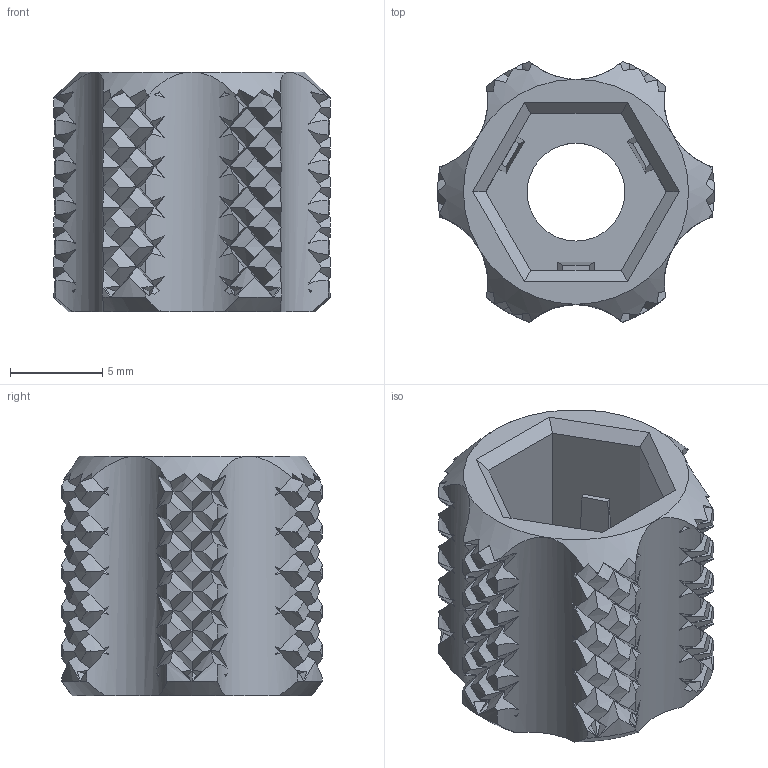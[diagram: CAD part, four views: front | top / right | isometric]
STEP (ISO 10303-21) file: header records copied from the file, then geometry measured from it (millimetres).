
FILE_DESCRIPTION(/* description */ ('STEP AP214'),/* implementation_level */ '2;1');
FILE_NAME(/* name */ '609ff38e075e6312271dfb0f',/* time_stamp */ '2021-05-15T16:15:12+00:00',/* author */ (''),/* organization */ (''),/* preprocessor_version */ 'ST-DEVELOPER v18.1',/* originating_system */ ' ',/* authorisation */ ' ');
FILE_SCHEMA (('AUTOMOTIVE_DESIGN {1 0 10303 214 3 1 1}'));
Length unit declared in the file: metre
Products named in the file (1): M5 Knob Grippy
Bounding box: 15 x 14.13 x 13 mm (x, y, z)
Volume: 1098.7 mm3; surface area: 1434.5 mm2
Topology: 1 solids, 1 shells, 816 faces, 1800 edges, 995 vertices
Faces by surface type: bspline 608, cylinder 121, plane 75, cone 12
Full cylindrical faces by diameter (mm): 5.3 x1
Entity records: 26232 total; most frequent: CARTESIAN_POINT 14689, ORIENTED_EDGE 3596, EDGE_CURVE 1798, VERTEX_POINT 994, B_SPLINE_CURVE_WITH_KNOTS 900, EDGE_LOOP 828, FACE_BOUND 828, ADVANCED_FACE 816
